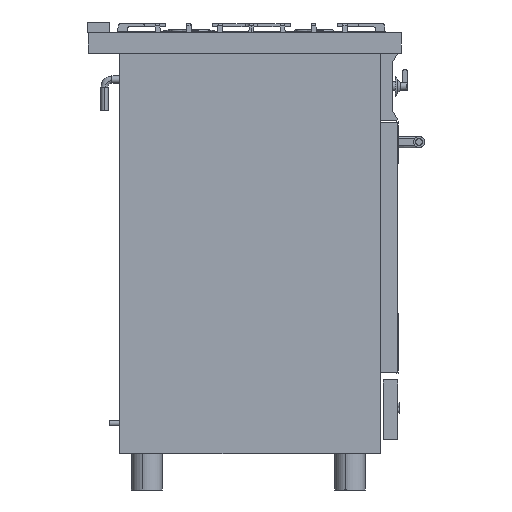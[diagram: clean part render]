
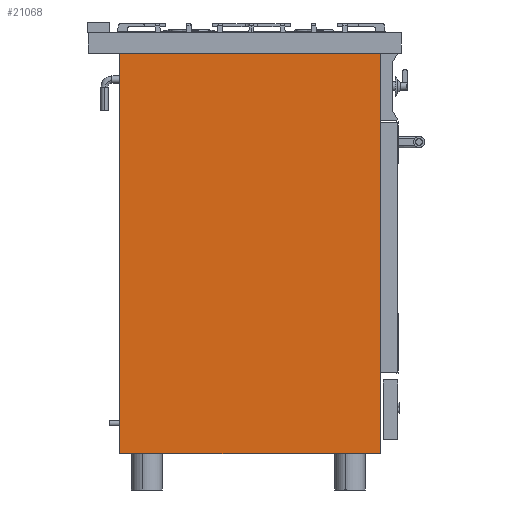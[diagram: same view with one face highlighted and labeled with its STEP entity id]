
A CAD part, left-side view. The second image highlights one B-rep face of the part: STEP entity #21068.
In plain terms, the highlighted planar face has unit normal (-1, 0, 0).
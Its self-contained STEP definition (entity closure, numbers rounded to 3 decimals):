
#700=LINE('',#30712,#2543);
#707=LINE('',#30800,#2550);
#710=LINE('',#30806,#2553);
#713=LINE('',#30812,#2556);
#2543=VECTOR('',#24933,1000.);
#2550=VECTOR('',#25008,1000.);
#2553=VECTOR('',#25013,1000.);
#2556=VECTOR('',#25018,1000.);
#4923=PLANE('',#22998);
#5721=ORIENTED_EDGE('',*,*,#12093,.T.);
#5722=ORIENTED_EDGE('',*,*,#12096,.T.);
#5723=ORIENTED_EDGE('',*,*,#12057,.F.);
#5724=ORIENTED_EDGE('',*,*,#12090,.T.);
#12057=EDGE_CURVE('',#15291,#15292,#700,.T.);
#12090=EDGE_CURVE('',#15291,#15314,#707,.T.);
#12093=EDGE_CURVE('',#15314,#15316,#710,.T.);
#12096=EDGE_CURVE('',#15316,#15292,#713,.T.);
#15291=VERTEX_POINT('',#30713);
#15292=VERTEX_POINT('',#30714);
#15314=VERTEX_POINT('',#30801);
#15316=VERTEX_POINT('',#30807);
#17924=EDGE_LOOP('',(#5721,#5722,#5723,#5724));
#19303=FACE_BOUND('',#17924,.T.);
#21068=ADVANCED_FACE('',(#19303),#4923,.F.);
#22998=AXIS2_PLACEMENT_3D('',#31075,#25048,#25049);
#24933=DIRECTION('',(0.,1.,0.));
#25008=DIRECTION('',(0.,0.,1.));
#25013=DIRECTION('',(0.,1.,0.));
#25018=DIRECTION('',(0.,0.,-1.));
#25048=DIRECTION('',(1.,0.,0.));
#25049=DIRECTION('',(0.,1.,0.));
#30712=CARTESIAN_POINT('',(-931.85,-259.27,-330.85));
#30713=CARTESIAN_POINT('',(-931.85,-259.27,-330.85));
#30714=CARTESIAN_POINT('',(-931.85,240.888,-330.85));
#30800=CARTESIAN_POINT('',(-931.85,-259.27,505.562));
#30801=CARTESIAN_POINT('',(-931.85,-259.27,437.55));
#30806=CARTESIAN_POINT('',(-931.85,484.881,437.55));
#30807=CARTESIAN_POINT('',(-931.85,240.888,437.55));
#30812=CARTESIAN_POINT('',(-931.85,240.888,53.35));
#31075=CARTESIAN_POINT('',(-931.85,484.881,505.562));
